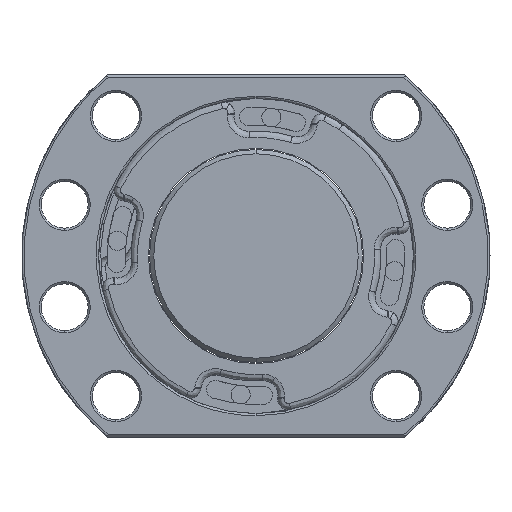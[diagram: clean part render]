
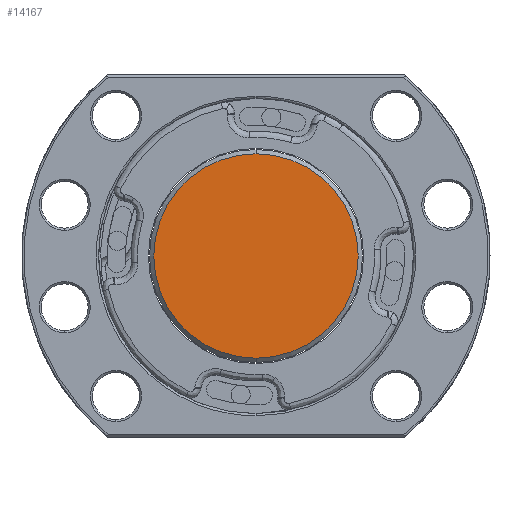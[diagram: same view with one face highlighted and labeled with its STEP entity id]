
A CAD part, left-side view. The second image highlights one B-rep face of the part: STEP entity #14167.
In plain terms, the highlighted planar face has unit normal (-1, 0, 0).
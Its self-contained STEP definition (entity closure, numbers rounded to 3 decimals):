
#296 = CARTESIAN_POINT ( 'NONE',  ( -10., 0., 24. ) ) ;
#762 = FACE_OUTER_BOUND ( 'NONE', #7692, .T. ) ;
#1027 = VERTEX_POINT ( 'NONE', #10010 ) ;
#1738 = ORIENTED_EDGE ( 'NONE', *, *, #15232, .T. ) ;
#1785 = ORIENTED_EDGE ( 'NONE', *, *, #14977, .T. ) ;
#1997 = VERTEX_POINT ( 'NONE', #296 ) ;
#2104 = CARTESIAN_POINT ( 'NONE',  ( -10., 0., 0. ) ) ;
#5335 = DIRECTION ( 'NONE',  ( -1., 0., 0. ) ) ;
#6385 = DIRECTION ( 'NONE',  ( 0., 0., 1. ) ) ;
#7029 = DIRECTION ( 'NONE',  ( -1., 0., 0. ) ) ;
#7692 = EDGE_LOOP ( 'NONE', ( #1785, #1738 ) ) ;
#7764 = CIRCLE ( 'NONE', #10051, 24. ) ;
#7969 = CIRCLE ( 'NONE', #13901, 24. ) ;
#8132 = DIRECTION ( 'NONE',  ( 0., 0., 1. ) ) ;
#10010 = CARTESIAN_POINT ( 'NONE',  ( -10., 0., -24. ) ) ;
#10025 = AXIS2_PLACEMENT_3D ( 'NONE', #14045, #7029, #8132 ) ;
#10051 = AXIS2_PLACEMENT_3D ( 'NONE', #2104, #14114, #12761 ) ;
#11661 = PLANE ( 'NONE',  #10025 ) ;
#12761 = DIRECTION ( 'NONE',  ( 0., 0., 1. ) ) ;
#13446 = CARTESIAN_POINT ( 'NONE',  ( -10., 0., 0. ) ) ;
#13901 = AXIS2_PLACEMENT_3D ( 'NONE', #13446, #5335, #6385 ) ;
#14045 = CARTESIAN_POINT ( 'NONE',  ( -10., 0., 0. ) ) ;
#14114 = DIRECTION ( 'NONE',  ( -1., 0., 0. ) ) ;
#14167 = ADVANCED_FACE ( 'NONE', ( #762 ), #11661, .T. ) ;
#14977 = EDGE_CURVE ( 'NONE', #1027, #1997, #7969, .T. ) ;
#15232 = EDGE_CURVE ( 'NONE', #1997, #1027, #7764, .T. ) ;
